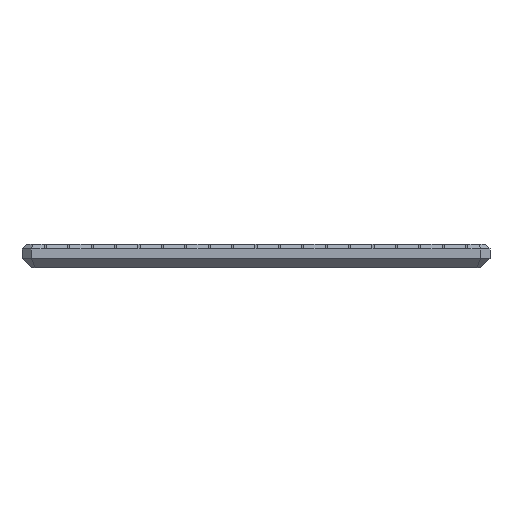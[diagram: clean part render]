
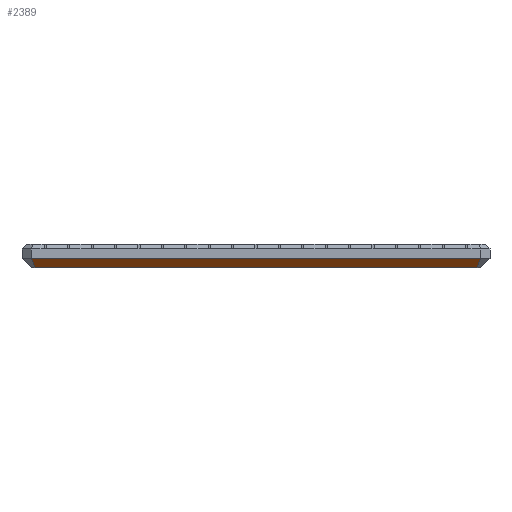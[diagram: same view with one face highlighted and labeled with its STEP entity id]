
A CAD part, front view. The second image highlights one B-rep face of the part: STEP entity #2389.
In plain terms, the highlighted planar face has unit normal (0, -0.707, -0.707).
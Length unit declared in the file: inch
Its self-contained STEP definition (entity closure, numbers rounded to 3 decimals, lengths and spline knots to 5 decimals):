
#137=FACE_OUTER_BOUND('',#269,.T.);
#269=EDGE_LOOP('',(#2057,#2058,#2059,#2060));
#548=LINE('',#3685,#879);
#598=LINE('',#3783,#929);
#599=LINE('',#3786,#930);
#600=LINE('',#3787,#931);
#879=VECTOR('',#3016,0.3937);
#929=VECTOR('',#3110,0.3937);
#930=VECTOR('',#3113,0.3937);
#931=VECTOR('',#3114,0.3937);
#1112=VERTEX_POINT('',#3682);
#1113=VERTEX_POINT('',#3684);
#1139=VERTEX_POINT('',#3781);
#1140=VERTEX_POINT('',#3785);
#1411=EDGE_CURVE('',#1113,#1112,#548,.T.);
#1461=EDGE_CURVE('',#1113,#1139,#598,.T.);
#1462=EDGE_CURVE('',#1140,#1139,#599,.T.);
#1463=EDGE_CURVE('',#1112,#1140,#600,.T.);
#2057=ORIENTED_EDGE('',*,*,#1462,.T.);
#2058=ORIENTED_EDGE('',*,*,#1461,.F.);
#2059=ORIENTED_EDGE('',*,*,#1411,.T.);
#2060=ORIENTED_EDGE('',*,*,#1463,.T.);
#2257=PLANE('',#2535);
#2389=ADVANCED_FACE('',(#137),#2257,.T.);
#2535=AXIS2_PLACEMENT_3D('',#3784,#3111,#3112);
#3016=DIRECTION('',(1.,0.,0.));
#3110=DIRECTION('',(-0.281,-0.679,0.679));
#3111=DIRECTION('center_axis',(0.,-0.707,-0.707));
#3112=DIRECTION('ref_axis',(-1.,0.,0.));
#3113=DIRECTION('',(-1.,0.,0.));
#3114=DIRECTION('',(0.281,-0.679,0.679));
#3682=CARTESIAN_POINT('',(4.85858,0.1,0.));
#3684=CARTESIAN_POINT('',(0.14142,0.1,0.));
#3685=CARTESIAN_POINT('',(1.3,0.1,0.));
#3781=CARTESIAN_POINT('',(0.1,0.,0.1));
#3783=CARTESIAN_POINT('',(0.14142,0.1,0.));
#3784=CARTESIAN_POINT('Origin',(1.3,0.05,0.05));
#3785=CARTESIAN_POINT('',(4.9,0.,0.1));
#3786=CARTESIAN_POINT('',(1.3,0.,0.1));
#3787=CARTESIAN_POINT('',(4.85858,0.1,0.));
